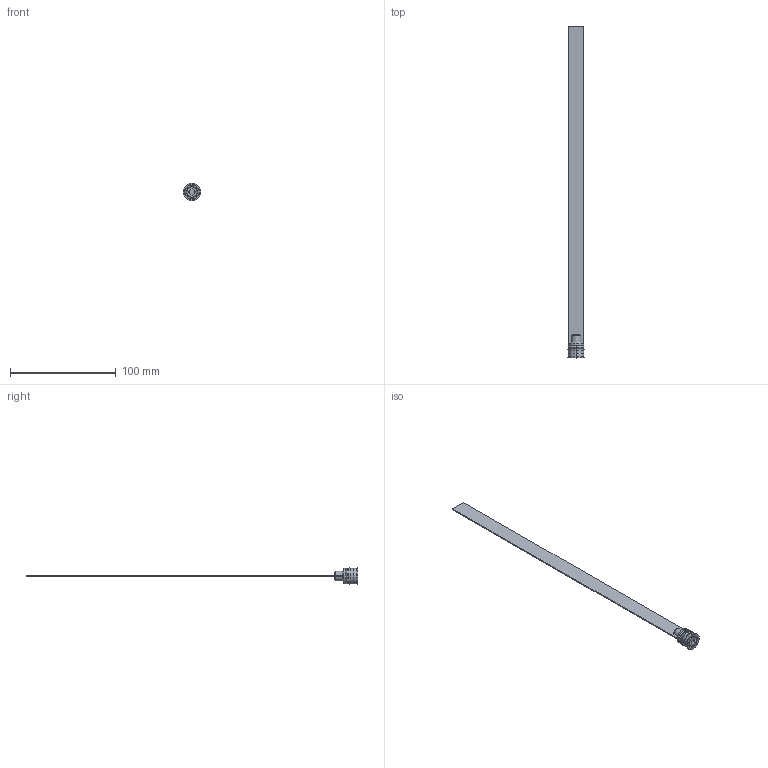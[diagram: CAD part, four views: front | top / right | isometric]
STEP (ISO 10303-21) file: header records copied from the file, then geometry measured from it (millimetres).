
FILE_DESCRIPTION (( 'STEP AP203' ), '1' );
FILE_NAME ('RL15Fx300.STEP', '2015-12-02T15:01:05', ( 'Balzi' ), ( '' ), 'SwSTEP 2.0', 'SolidWorks 2015', '' );
FILE_SCHEMA (( 'CONFIG_CONTROL_DESIGN' ));
Length unit declared in the file: millimetre
Products named in the file (1): RL15Fx300
Bounding box: 16.25 x 314 x 16.25 mm (x, y, z)
Volume: 7045.2 mm3; surface area: 11089.6 mm2
Topology: 1 solids, 1 shells, 72 faces, 171 edges, 105 vertices
Faces by surface type: plane 30, cylinder 17, cone 17, torus 8
Entity records: 2165 total; most frequent: CARTESIAN_POINT 399, DIRECTION 370, ORIENTED_EDGE 342, EDGE_CURVE 171, AXIS2_PLACEMENT_3D 140, VERTEX_POINT 105, VECTOR 90, LINE 90
